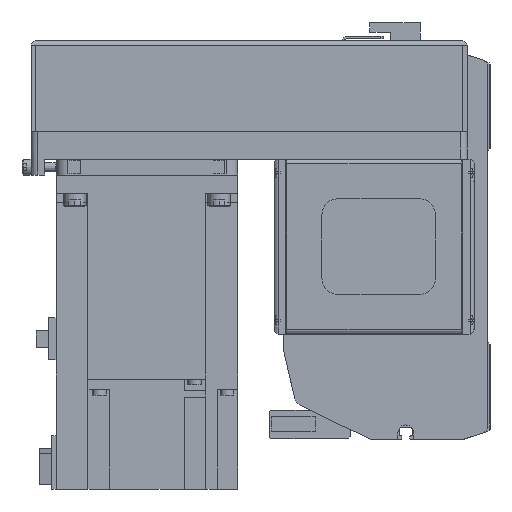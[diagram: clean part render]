
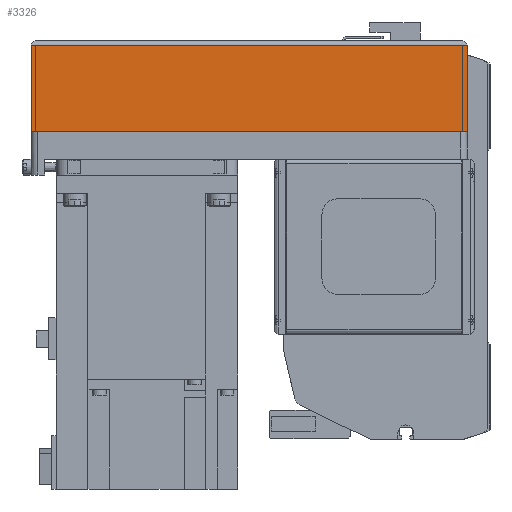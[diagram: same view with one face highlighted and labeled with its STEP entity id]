
A CAD part, left-side view. The second image highlights one B-rep face of the part: STEP entity #3326.
In plain terms, the highlighted planar face has unit normal (-1, 0, 0) as drawn and (0, 1, 0) by its records, which use the part's own axes.
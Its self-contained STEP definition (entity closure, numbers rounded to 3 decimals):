
#3326 = ADVANCED_FACE( '', ( #6933 ), #6934, .T. );
#6933 = FACE_OUTER_BOUND( '', #10551, .T. );
#6934 = PLANE( '', #10552 );
#10551 = EDGE_LOOP( '', ( #19894, #19895, #19896, #19897 ) );
#10552 = AXIS2_PLACEMENT_3D( '', #19898, #19899, #19900 );
#19894 = ORIENTED_EDGE( '', *, *, #21855, .F. );
#19895 = ORIENTED_EDGE( '', *, *, #23044, .F. );
#19896 = ORIENTED_EDGE( '', *, *, #23386, .T. );
#19897 = ORIENTED_EDGE( '', *, *, #20974, .T. );
#19898 = CARTESIAN_POINT( '', ( -192., 40., -50. ) );
#19899 = DIRECTION( '', ( 0., 1., 0. ) );
#19900 = DIRECTION( '', ( 0., 0., 1. ) );
#20974 = EDGE_CURVE( '', #25201, #25199, #25202, .T. );
#21855 = EDGE_CURVE( '', #26663, #25199, #26665, .T. );
#23044 = EDGE_CURVE( '', #26716, #26663, #28377, .T. );
#23386 = EDGE_CURVE( '', #26716, #25201, #28827, .T. );
#25199 = VERTEX_POINT( '', #31252 );
#25201 = VERTEX_POINT( '', #31255 );
#25202 = LINE( '', #31256, #31257 );
#26663 = VERTEX_POINT( '', #33580 );
#26665 = LINE( '', #33583, #33584 );
#26716 = VERTEX_POINT( '', #33670 );
#28377 = LINE( '', #36394, #36395 );
#28827 = LINE( '', #37020, #37021 );
#31252 = CARTESIAN_POINT( '', ( 0., 40., -12.1 ) );
#31255 = CARTESIAN_POINT( '', ( -192., 40., -12.1 ) );
#31256 = CARTESIAN_POINT( '', ( -192., 40., -12.1 ) );
#31257 = VECTOR( '', #39018, 1000. );
#33580 = CARTESIAN_POINT( '', ( 0., 40., -50. ) );
#33583 = CARTESIAN_POINT( '', ( 0., 40., -50. ) );
#33584 = VECTOR( '', #40128, 1000. );
#33670 = CARTESIAN_POINT( '', ( -192., 40., -50. ) );
#36394 = CARTESIAN_POINT( '', ( -192., 40., -50. ) );
#36395 = VECTOR( '', #41500, 1000. );
#37020 = CARTESIAN_POINT( '', ( -192., 40., -50. ) );
#37021 = VECTOR( '', #41904, 1000. );
#39018 = DIRECTION( '', ( 1., 0., 0. ) );
#40128 = DIRECTION( '', ( 0., 0., 1. ) );
#41500 = DIRECTION( '', ( 1., 0., 0. ) );
#41904 = DIRECTION( '', ( 0., 0., 1. ) );
